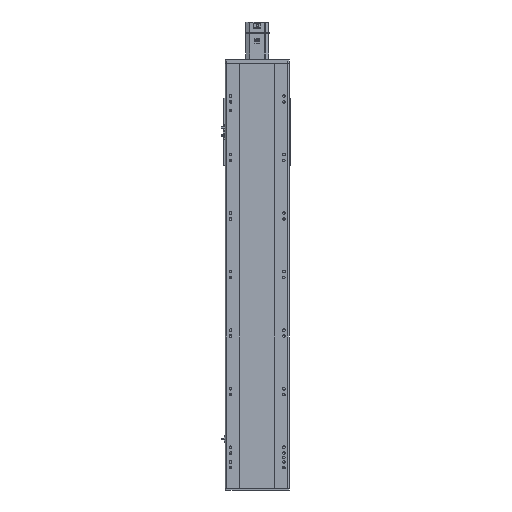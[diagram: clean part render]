
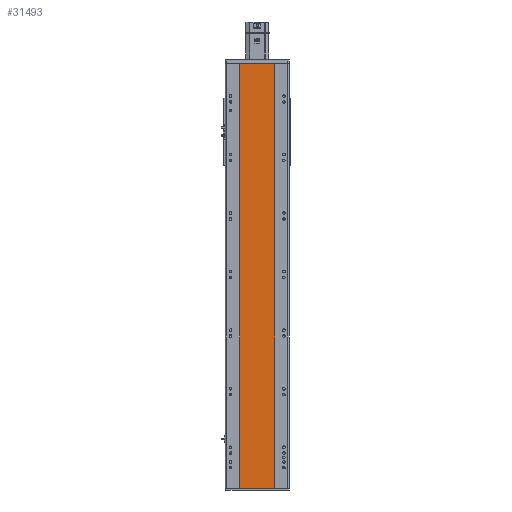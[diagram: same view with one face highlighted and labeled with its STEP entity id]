
A CAD part, front view. The second image highlights one B-rep face of the part: STEP entity #31493.
In plain terms, the highlighted planar face has unit normal (0, -1, 0).
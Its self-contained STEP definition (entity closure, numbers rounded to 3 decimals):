
#4420 = VECTOR ( 'NONE', #37992, 1000. ) ;
#4634 = VERTEX_POINT ( 'NONE', #21028 ) ;
#5378 = ORIENTED_EDGE ( 'NONE', *, *, #23809, .F. ) ;
#5624 = VERTEX_POINT ( 'NONE', #22464 ) ;
#7318 = CARTESIAN_POINT ( 'NONE',  ( -59., 1., -725.5 ) ) ;
#8710 = VECTOR ( 'NONE', #38865, 1000. ) ;
#9209 = DIRECTION ( 'NONE',  ( -1., 0., 0. ) ) ;
#12193 = EDGE_CURVE ( 'NONE', #4634, #32659, #22198, .T. ) ;
#12406 = LINE ( 'NONE', #35163, #24408 ) ;
#12677 = AXIS2_PLACEMENT_3D ( 'NONE', #30259, #39439, #9209 ) ;
#12969 = CARTESIAN_POINT ( 'NONE',  ( -59., 1., 725.5 ) ) ;
#13007 = EDGE_CURVE ( 'NONE', #4634, #5624, #26901, .T. ) ;
#13731 = CARTESIAN_POINT ( 'NONE',  ( 59., 1., -725.5 ) ) ;
#14459 = ORIENTED_EDGE ( 'NONE', *, *, #12193, .T. ) ;
#14650 = CARTESIAN_POINT ( 'NONE',  ( 59., 1., 725.5 ) ) ;
#19220 = VERTEX_POINT ( 'NONE', #13731 ) ;
#20049 = FACE_OUTER_BOUND ( 'NONE', #24000, .T. ) ;
#20957 = ORIENTED_EDGE ( 'NONE', *, *, #37830, .T. ) ;
#21028 = CARTESIAN_POINT ( 'NONE',  ( -59., 1., 725.5 ) ) ;
#21070 = CARTESIAN_POINT ( 'NONE',  ( -59., 1., 725.5 ) ) ;
#22198 = LINE ( 'NONE', #12969, #4420 ) ;
#22464 = CARTESIAN_POINT ( 'NONE',  ( 59., 1., 725.5 ) ) ;
#23809 = EDGE_CURVE ( 'NONE', #5624, #19220, #27418, .T. ) ;
#24000 = EDGE_LOOP ( 'NONE', ( #20957, #5378, #34088, #14459 ) ) ;
#24408 = VECTOR ( 'NONE', #35416, 1000. ) ;
#26901 = LINE ( 'NONE', #21070, #38827 ) ;
#27418 = LINE ( 'NONE', #14650, #8710 ) ;
#30259 = CARTESIAN_POINT ( 'NONE',  ( -59., 1., 725.5 ) ) ;
#31493 = ADVANCED_FACE ( 'NONE', ( #20049 ), #36403, .F. ) ;
#32659 = VERTEX_POINT ( 'NONE', #7318 ) ;
#33127 = DIRECTION ( 'NONE',  ( 1., 0., 0. ) ) ;
#34088 = ORIENTED_EDGE ( 'NONE', *, *, #13007, .F. ) ;
#35163 = CARTESIAN_POINT ( 'NONE',  ( -59., 1., -725.5 ) ) ;
#35416 = DIRECTION ( 'NONE',  ( 1., 0., 0. ) ) ;
#36403 = PLANE ( 'NONE',  #12677 ) ;
#37830 = EDGE_CURVE ( 'NONE', #32659, #19220, #12406, .T. ) ;
#37992 = DIRECTION ( 'NONE',  ( 0., 0., -1. ) ) ;
#38827 = VECTOR ( 'NONE', #33127, 1000. ) ;
#38865 = DIRECTION ( 'NONE',  ( 0., 0., -1. ) ) ;
#39439 = DIRECTION ( 'NONE',  ( 0., 1., 0. ) ) ;
